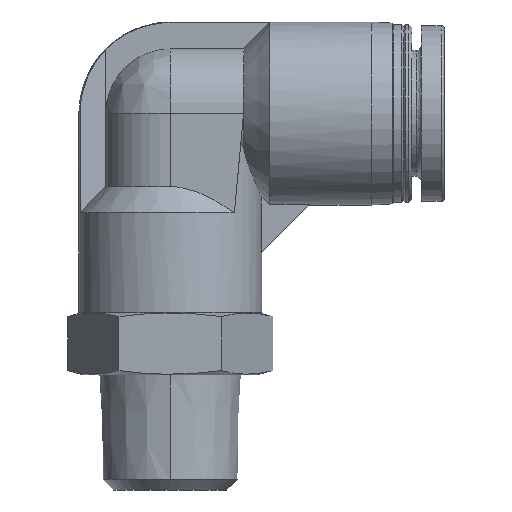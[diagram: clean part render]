
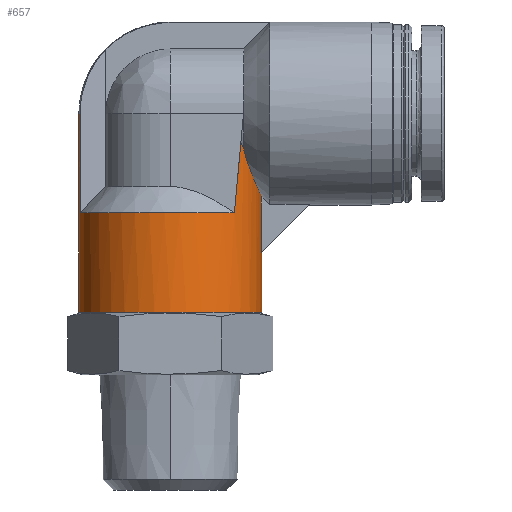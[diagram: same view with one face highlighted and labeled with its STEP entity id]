
A CAD part, front view. The second image highlights one B-rep face of the part: STEP entity #657.
In plain terms, the highlighted cylindrical face has radius 8.75 mm (diameter 17.5 mm), a partial arc.
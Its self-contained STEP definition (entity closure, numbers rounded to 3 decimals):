
#31 = VERTEX_POINT ( 'NONE', #2732 ) ;
#93 = CARTESIAN_POINT ( 'NONE',  ( 6.74, -5.58, 33.184 ) ) ;
#144 = CARTESIAN_POINT ( 'NONE',  ( 8.75, 0., 17. ) ) ;
#182 = ORIENTED_EDGE ( 'NONE', *, *, #783, .F. ) ;
#194 =( BOUNDED_CURVE ( )  B_SPLINE_CURVE ( 3, ( #1478, #381, #1034, #2555 ),
 .UNSPECIFIED., .F., .T. ) 
 B_SPLINE_CURVE_WITH_KNOTS ( ( 4, 4 ),
 ( 6.169, 6.283 ),
 .UNSPECIFIED. ) 
 CURVE ( )  GEOMETRIC_REPRESENTATION_ITEM ( )  RATIONAL_B_SPLINE_CURVE ( ( 1., 0.999, 0.999, 1. ) ) 
 REPRESENTATION_ITEM ( '' )  );
#207 = CIRCLE ( 'NONE', #2134, 8.75 ) ;
#263 = ORIENTED_EDGE ( 'NONE', *, *, #1921, .T. ) ;
#317 = ORIENTED_EDGE ( 'NONE', *, *, #2107, .F. ) ;
#339 = ORIENTED_EDGE ( 'NONE', *, *, #1305, .T. ) ;
#354 = CARTESIAN_POINT ( 'NONE',  ( 6.546, -5.814, 31.083 ) ) ;
#358 = CARTESIAN_POINT ( 'NONE',  ( 0., 0., 36. ) ) ;
#381 = CARTESIAN_POINT ( 'NONE',  ( 8.731, -0.668, 22.731 ) ) ;
#401 = VERTEX_POINT ( 'NONE', #93 ) ;
#421 = CARTESIAN_POINT ( 'NONE',  ( 8.75, 0., 17. ) ) ;
#428 = CARTESIAN_POINT ( 'NONE',  ( 6.74, -5.58, 33.184 ) ) ;
#429 = CARTESIAN_POINT ( 'NONE',  ( -8.629, -1.45, 36. ) ) ;
#445 = DIRECTION ( 'NONE',  ( 1., 0., 0. ) ) ;
#463 = CARTESIAN_POINT ( 'NONE',  ( 8.252, -2.949, 29.082 ) ) ;
#498 = CARTESIAN_POINT ( 'NONE',  ( 7.52, -4.476, 30.914 ) ) ;
#565 = VERTEX_POINT ( 'NONE', #591 ) ;
#576 = CARTESIAN_POINT ( 'NONE',  ( 6.124, -6.25, 26.5 ) ) ;
#583 = DIRECTION ( 'NONE',  ( 1., 0., 0. ) ) ;
#587 = DIRECTION ( 'NONE',  ( 0., 0., 1. ) ) ;
#591 = CARTESIAN_POINT ( 'NONE',  ( 8.75, 0., 22.75 ) ) ;
#592 =( BOUNDED_CURVE ( )  B_SPLINE_CURVE ( 3, ( #2288, #354, #1211, #2063 ),
 .UNSPECIFIED., .F., .F. ) 
 B_SPLINE_CURVE_WITH_KNOTS ( ( 4, 4 ),
 ( 0.691, 0.796 ),
 .UNSPECIFIED. ) 
 CURVE ( )  GEOMETRIC_REPRESENTATION_ITEM ( )  RATIONAL_B_SPLINE_CURVE ( ( 1., 0.999, 0.999, 1. ) ) 
 REPRESENTATION_ITEM ( '' )  );
#600 = CARTESIAN_POINT ( 'NONE',  ( 0., 0., 26.5 ) ) ;
#613 = EDGE_CURVE ( 'NONE', #1562, #565, #194, .T. ) ;
#619 = DIRECTION ( 'NONE',  ( 1., 0., 0. ) ) ;
#635 = DIRECTION ( 'NONE',  ( 0., 0., 1. ) ) ;
#657 = ADVANCED_FACE ( '39', ( #663 ), #2597, .T. ) ;
#663 = FACE_OUTER_BOUND ( 'NONE', #1661, .T. ) ;
#783 = EDGE_CURVE ( 'NONE', #1541, #996, #900, .T. ) ;
#798 = DIRECTION ( 'NONE',  ( 0., 0., -1. ) ) ;
#799 = CARTESIAN_POINT ( 'NONE',  ( 7., -5.25, 32.609 ) ) ;
#801 = LINE ( 'NONE', #1247, #2458 ) ;
#806 = AXIS2_PLACEMENT_3D ( 'NONE', #1511, #635, #445 ) ;
#826 = VECTOR ( 'NONE', #2642, 1000. ) ;
#866 = CARTESIAN_POINT ( 'NONE',  ( -8.629, -1.45, 26.5 ) ) ;
#900 = B_SPLINE_CURVE_WITH_KNOTS ( 'NONE', 3,
 ( #1976, #2392, #1767, #498, #921, #1099, #1115, #1345, #463, #1797, #2653, #1962 ),
 .UNSPECIFIED., .F., .F.,
 ( 4, 2, 2, 2, 2, 4 ),
 ( 0., 0.002, 0.002, 0.003, 0.005, 0.007 ),
 .UNSPECIFIED. ) ;
#915 = EDGE_CURVE ( 'NONE', #401, #2034, #592, .T. ) ;
#921 = CARTESIAN_POINT ( 'NONE',  ( 7.602, -4.337, 30.69 ) ) ;
#996 = VERTEX_POINT ( 'NONE', #2345 ) ;
#1004 = CIRCLE ( 'NONE', #2592, 8.75 ) ;
#1034 = CARTESIAN_POINT ( 'NONE',  ( 8.75, -0.334, 22.75 ) ) ;
#1099 = CARTESIAN_POINT ( 'NONE',  ( 7.766, -4.035, 30.255 ) ) ;
#1115 = CARTESIAN_POINT ( 'NONE',  ( 7.85, -3.871, 30.043 ) ) ;
#1172 = ORIENTED_EDGE ( 'NONE', *, *, #2340, .T. ) ;
#1211 = CARTESIAN_POINT ( 'NONE',  ( 6.341, -6.037, 28.853 ) ) ;
#1223 = ORIENTED_EDGE ( 'NONE', *, *, #1409, .T. ) ;
#1230 = ORIENTED_EDGE ( 'NONE', *, *, #1830, .F. ) ;
#1235 = CIRCLE ( 'NONE', #2412, 8.75 ) ;
#1247 = CARTESIAN_POINT ( 'NONE',  ( 8.693, -1., 28.153 ) ) ;
#1302 = DIRECTION ( 'NONE',  ( 0., 0., 1. ) ) ;
#1305 = EDGE_CURVE ( 'NONE', #1745, #2075, #2679, .T. ) ;
#1322 = B_SPLINE_CURVE_WITH_KNOTS ( 'NONE', 3,
 ( #1697, #1504, #1930, #428 ),
 .UNSPECIFIED., .F., .F.,
 ( 4, 4 ),
 ( 0., 0.001 ),
 .UNSPECIFIED. ) ;
#1345 = CARTESIAN_POINT ( 'NONE',  ( 8.095, -3.343, 29.44 ) ) ;
#1375 = VERTEX_POINT ( 'NONE', #144 ) ;
#1409 = EDGE_CURVE ( 'NONE', #1541, #401, #1322, .T. ) ;
#1418 = DIRECTION ( 'NONE',  ( 0., 0., 1. ) ) ;
#1478 = CARTESIAN_POINT ( 'NONE',  ( 8.693, -1., 22.693 ) ) ;
#1504 = CARTESIAN_POINT ( 'NONE',  ( 6.91, -5.369, 32.794 ) ) ;
#1510 = ORIENTED_EDGE ( 'NONE', *, *, #2039, .T. ) ;
#1511 = CARTESIAN_POINT ( 'NONE',  ( 0., 0., 17. ) ) ;
#1541 = VERTEX_POINT ( 'NONE', #799 ) ;
#1550 = EDGE_CURVE ( 'NONE', #2034, #1745, #207, .T. ) ;
#1562 = VERTEX_POINT ( 'NONE', #2335 ) ;
#1564 = VECTOR ( 'NONE', #1418, 1000. ) ;
#1634 = DIRECTION ( 'NONE',  ( 1., 0., 0. ) ) ;
#1641 = LINE ( 'NONE', #2287, #826 ) ;
#1661 = EDGE_LOOP ( 'NONE', ( #1230, #1510, #263, #2005, #317, #182, #1223, #1859, #2779, #339, #1172 ) ) ;
#1697 = CARTESIAN_POINT ( 'NONE',  ( 7., -5.25, 32.609 ) ) ;
#1745 = VERTEX_POINT ( 'NONE', #866 ) ;
#1767 = CARTESIAN_POINT ( 'NONE',  ( 7.282, -4.86, 31.607 ) ) ;
#1797 = CARTESIAN_POINT ( 'NONE',  ( 8.522, -2.039, 28.481 ) ) ;
#1830 = EDGE_CURVE ( 'NONE', #31, #2251, #1641, .T. ) ;
#1849 = CARTESIAN_POINT ( 'NONE',  ( -8.629, -1.45, 17. ) ) ;
#1859 = ORIENTED_EDGE ( 'NONE', *, *, #915, .T. ) ;
#1921 = EDGE_CURVE ( 'NONE', #1375, #565, #2186, .T. ) ;
#1930 = CARTESIAN_POINT ( 'NONE',  ( 6.823, -5.479, 32.985 ) ) ;
#1962 = CARTESIAN_POINT ( 'NONE',  ( 8.693, -1., 28.121 ) ) ;
#1976 = CARTESIAN_POINT ( 'NONE',  ( 7., -5.25, 32.609 ) ) ;
#2001 = VECTOR ( 'NONE', #1302, 1000. ) ;
#2005 = ORIENTED_EDGE ( 'NONE', *, *, #613, .F. ) ;
#2034 = VERTEX_POINT ( 'NONE', #576 ) ;
#2039 = EDGE_CURVE ( 'NONE', #31, #1375, #1004, .T. ) ;
#2063 = CARTESIAN_POINT ( 'NONE',  ( 6.124, -6.25, 26.5 ) ) ;
#2075 = VERTEX_POINT ( 'NONE', #429 ) ;
#2087 = CARTESIAN_POINT ( 'NONE',  ( 0., 0., 17. ) ) ;
#2107 = EDGE_CURVE ( 'NONE', #996, #1562, #801, .T. ) ;
#2134 = AXIS2_PLACEMENT_3D ( 'NONE', #600, #2281, #1634 ) ;
#2186 = LINE ( 'NONE', #421, #2001 ) ;
#2219 = CARTESIAN_POINT ( 'NONE',  ( -8.75, 0., 36. ) ) ;
#2251 = VERTEX_POINT ( 'NONE', #2219 ) ;
#2281 = DIRECTION ( 'NONE',  ( 0., 0., -1. ) ) ;
#2287 = CARTESIAN_POINT ( 'NONE',  ( -8.75, 0., 17. ) ) ;
#2288 = CARTESIAN_POINT ( 'NONE',  ( 6.74, -5.58, 33.184 ) ) ;
#2335 = CARTESIAN_POINT ( 'NONE',  ( 8.693, -1., 22.693 ) ) ;
#2340 = EDGE_CURVE ( 'NONE', #2075, #2251, #1235, .T. ) ;
#2345 = CARTESIAN_POINT ( 'NONE',  ( 8.693, -1., 28.121 ) ) ;
#2392 = CARTESIAN_POINT ( 'NONE',  ( 7.132, -5.074, 32.094 ) ) ;
#2412 = AXIS2_PLACEMENT_3D ( 'NONE', #358, #798, #583 ) ;
#2458 = VECTOR ( 'NONE', #2538, 1000. ) ;
#2538 = DIRECTION ( 'NONE',  ( 0., 0., -1. ) ) ;
#2555 = CARTESIAN_POINT ( 'NONE',  ( 8.75, 0., 22.75 ) ) ;
#2592 = AXIS2_PLACEMENT_3D ( 'NONE', #2087, #587, #619 ) ;
#2597 = CYLINDRICAL_SURFACE ( 'NONE', #806, 8.75 ) ;
#2642 = DIRECTION ( 'NONE',  ( 0., 0., 1. ) ) ;
#2653 = CARTESIAN_POINT ( 'NONE',  ( 8.63, -1.545, 28.253 ) ) ;
#2679 = LINE ( 'NONE', #1849, #1564 ) ;
#2732 = CARTESIAN_POINT ( 'NONE',  ( -8.75, 0., 17. ) ) ;
#2779 = ORIENTED_EDGE ( 'NONE', *, *, #1550, .T. ) ;
